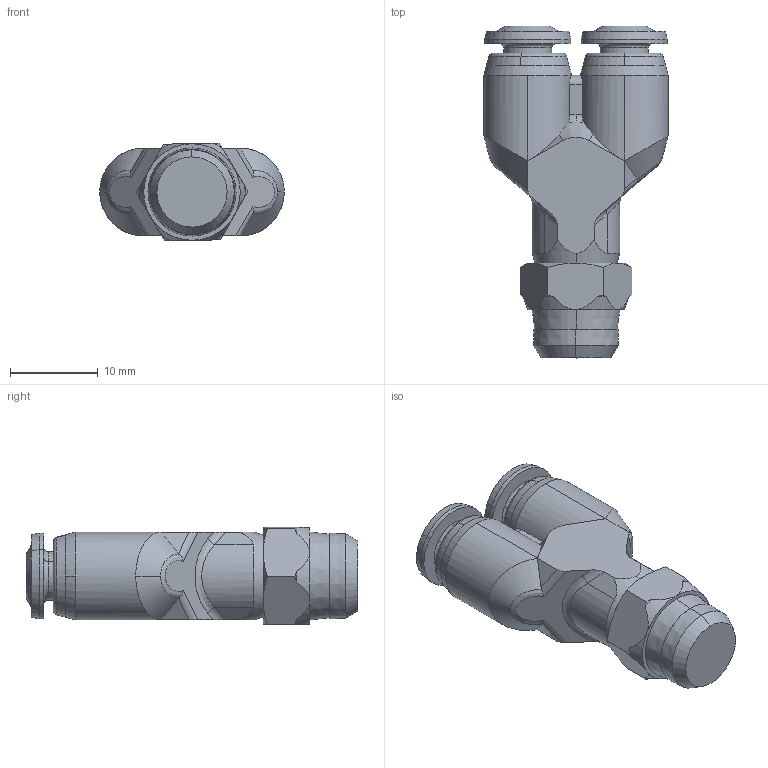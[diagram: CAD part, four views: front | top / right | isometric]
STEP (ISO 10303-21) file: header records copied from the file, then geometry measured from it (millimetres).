
FILE_DESCRIPTION (( 'STEP AP203' ), '1' );
FILE_NAME ('8532000001A.step', '2012-11-06T09:48:08', ( '' ), ( '' ), 'SwSTEP 2.0', 'SolidWorks 2012', '' );
FILE_SCHEMA (( 'CONFIG_CONTROL_DESIGN' ));
Length unit declared in the file: millimetre
Products named in the file (1): 8532000001A
Bounding box: 21 x 37.8 x 11.09 mm (x, y, z)
Volume: 4374.7 mm3; surface area: 2127.9 mm2
Topology: 1 solids, 1 shells, 369 faces, 977 edges, 642 vertices
Faces by surface type: bspline 216, cone 76, plane 40, cylinder 26, torus 11
Entity records: 21002 total; most frequent: CARTESIAN_POINT 13816, ORIENTED_EDGE 1954, EDGE_CURVE 977, B_SPLINE_CURVE_WITH_KNOTS 726, DIRECTION 658, VERTEX_POINT 642, EDGE_LOOP 401, ADVANCED_FACE 369
